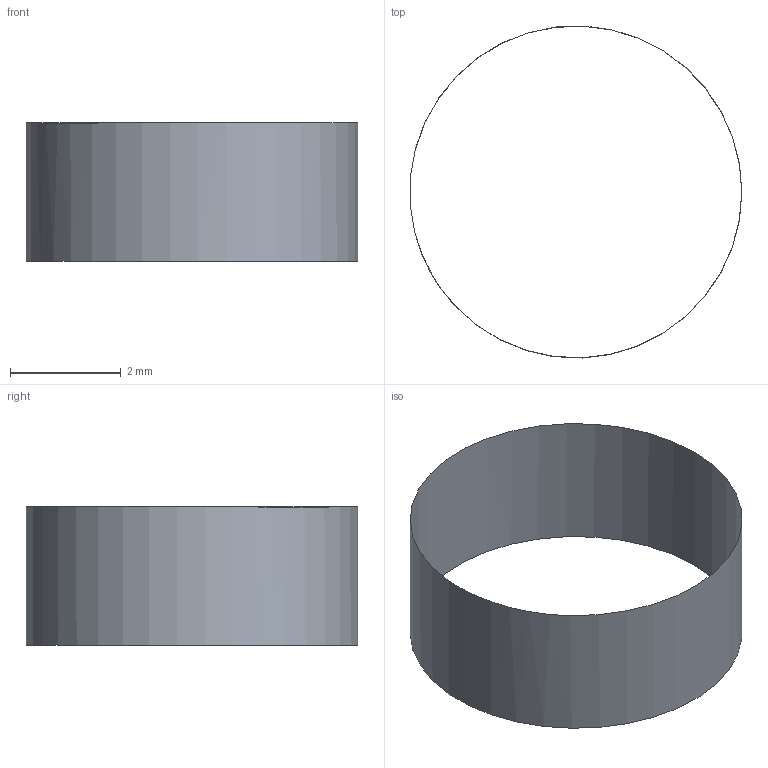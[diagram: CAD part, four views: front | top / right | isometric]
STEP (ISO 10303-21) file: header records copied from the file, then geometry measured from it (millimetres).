
FILE_DESCRIPTION(('BRL-CAD focused geometric regression fixture'),'2;1');
FILE_NAME('measured_periodic_winding','2026-07-25T00:00:00',('BRL-CAD'),('BRL-CAD'),'','','');
FILE_SCHEMA(('AUTOMOTIVE_DESIGN { 1 0 10303 214 3 1 1 1 }'));
Length unit declared in the file: millimetre
Products named in the file (1): measured_periodic_winding
Bounding box: 5.99 x 5.99 x 2.5 mm (x, y, z)
Surface area: 47.1 mm2 (no closed solid volume)
Topology: 0 solids, 1 shells, 1 faces, 5 edges, 4 vertices
Faces by surface type: cylinder 1
Full cylindrical faces by diameter (mm): 6 x1
Entity records: 51 total; most frequent: CARTESIAN_POINT 11, DIRECTION 6, VERTEX_POINT 3, EDGE_CURVE 3, ORIENTED_EDGE 3, AXIS2_PLACEMENT_3D 3, EDGE_LOOP 2, CIRCLE 2
